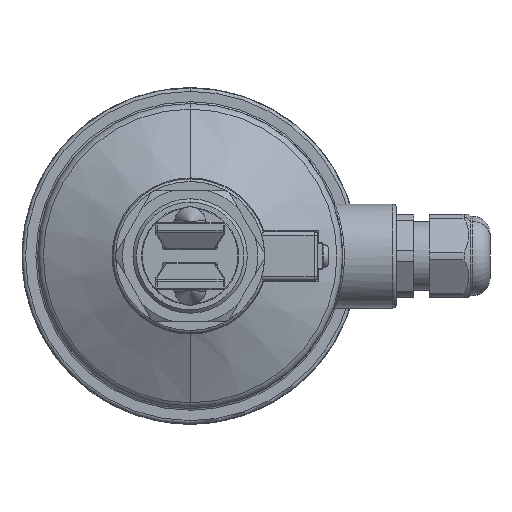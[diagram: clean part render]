
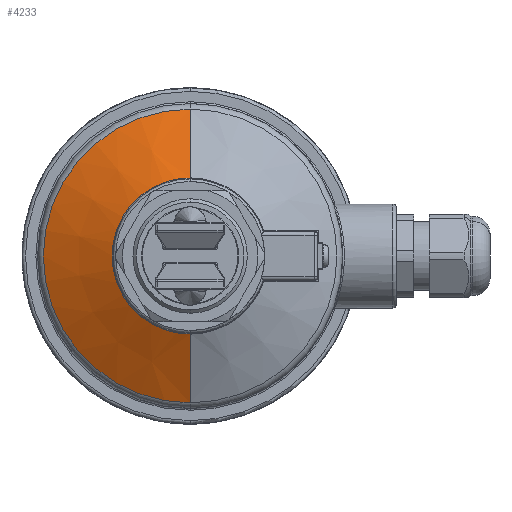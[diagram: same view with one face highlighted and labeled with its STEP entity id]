
A CAD part, front view. The second image highlights one B-rep face of the part: STEP entity #4233.
In plain terms, the highlighted conical face has half-angle 63.172 degrees and reference radius 22.25 mm.
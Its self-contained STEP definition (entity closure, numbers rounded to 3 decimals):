
#991 = DIRECTION ( 'NONE',  ( 0., 0.451, -0.892 ) ) ;
#996 = CARTESIAN_POINT ( 'NONE',  ( 0., 94.5, 0. ) ) ;
#1390 = CIRCLE ( 'NONE', #12616, 42.354 ) ;
#1751 = VERTEX_POINT ( 'NONE', #9395 ) ;
#2092 = EDGE_CURVE ( 'NONE', #1751, #7665, #11633, .T. ) ;
#3161 = ORIENTED_EDGE ( 'NONE', *, *, #2092, .T. ) ;
#3207 = DIRECTION ( 'NONE',  ( 0., 0., -1. ) ) ;
#3755 = CARTESIAN_POINT ( 'NONE',  ( 0., 94.639, 0. ) ) ;
#4005 = DIRECTION ( 'NONE',  ( 0., 0.451, 0.892 ) ) ;
#4233 = ADVANCED_FACE ( 'NONE', ( #14717 ), #17435, .T. ) ;
#4882 = VECTOR ( 'NONE', #4005, 1000. ) ;
#5177 = VERTEX_POINT ( 'NONE', #9545 ) ;
#5769 = EDGE_CURVE ( 'NONE', #5177, #11264, #8615, .T. ) ;
#6084 = AXIS2_PLACEMENT_3D ( 'NONE', #3755, #8385, #14483 ) ;
#6492 = VECTOR ( 'NONE', #991, 1000. ) ;
#7106 = DIRECTION ( 'NONE',  ( 0., 1., 0. ) ) ;
#7665 = VERTEX_POINT ( 'NONE', #17211 ) ;
#8385 = DIRECTION ( 'NONE',  ( 0., 1., 0. ) ) ;
#8615 = LINE ( 'NONE', #14712, #6492 ) ;
#8797 = AXIS2_PLACEMENT_3D ( 'NONE', #996, #7106, #13219 ) ;
#9116 = EDGE_CURVE ( 'NONE', #7665, #11264, #1390, .T. ) ;
#9353 = ORIENTED_EDGE ( 'NONE', *, *, #5769, .F. ) ;
#9395 = CARTESIAN_POINT ( 'NONE',  ( 0., 94.639, 22.524 ) ) ;
#9545 = CARTESIAN_POINT ( 'NONE',  ( 0., 94.639, -22.524 ) ) ;
#10578 = ORIENTED_EDGE ( 'NONE', *, *, #18751, .T. ) ;
#10843 = CARTESIAN_POINT ( 'NONE',  ( 0., 104.668, 0. ) ) ;
#11264 = VERTEX_POINT ( 'NONE', #12158 ) ;
#11447 = ORIENTED_EDGE ( 'NONE', *, *, #9116, .T. ) ;
#11633 = LINE ( 'NONE', #17727, #4882 ) ;
#12158 = CARTESIAN_POINT ( 'NONE',  ( 0., 104.668, -42.354 ) ) ;
#12231 = EDGE_LOOP ( 'NONE', ( #9353, #10578, #3161, #11447 ) ) ;
#12616 = AXIS2_PLACEMENT_3D ( 'NONE', #10843, #16935, #3207 ) ;
#13219 = DIRECTION ( 'NONE',  ( 0., 0., 1. ) ) ;
#14483 = DIRECTION ( 'NONE',  ( 0., 0., 1. ) ) ;
#14712 = CARTESIAN_POINT ( 'NONE',  ( 0., 94.5, -22.25 ) ) ;
#14717 = FACE_OUTER_BOUND ( 'NONE', #12231, .T. ) ;
#14727 = CIRCLE ( 'NONE', #6084, 22.524 ) ;
#16935 = DIRECTION ( 'NONE',  ( 0., -1., 0. ) ) ;
#17211 = CARTESIAN_POINT ( 'NONE',  ( 0., 104.668, 42.354 ) ) ;
#17435 = CONICAL_SURFACE ( 'NONE', #8797, 22.25, 1.103 ) ;
#17727 = CARTESIAN_POINT ( 'NONE',  ( 0., 94.5, 22.25 ) ) ;
#18751 = EDGE_CURVE ( 'NONE', #5177, #1751, #14727, .T. ) ;
